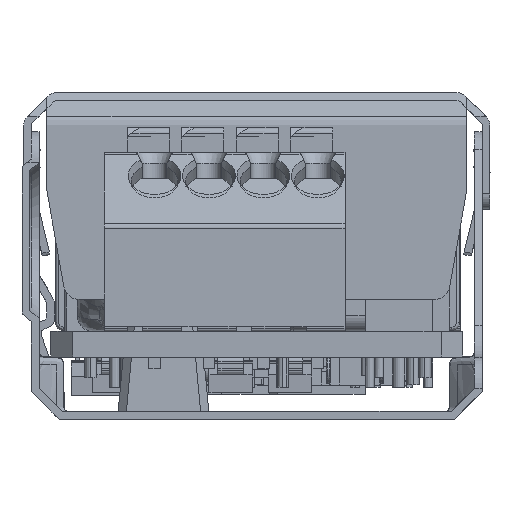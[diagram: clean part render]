
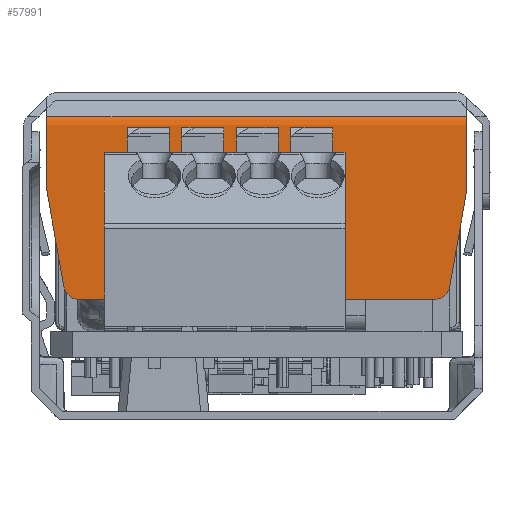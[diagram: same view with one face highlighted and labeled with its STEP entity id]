
A CAD part, left-side view. The second image highlights one B-rep face of the part: STEP entity #57991.
In plain terms, the highlighted free-form (B-spline) face has degree [1, 2] with [2, 5] control points.
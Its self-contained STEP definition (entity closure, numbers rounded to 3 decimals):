
#8687 = CARTESIAN_POINT ( 'NONE',  ( -158.504, 17.615, 362.98 ) ) ;
#11946 = AXIS2_PLACEMENT_3D ( 'NONE', #190408, #81082, #208755 ) ;
#12667 = CARTESIAN_POINT ( 'NONE',  ( -158.504, -9.385, 364.392 ) ) ;
#15989 = VERTEX_POINT ( 'NONE', #109671 ) ;
#16923 = ORIENTED_EDGE ( 'NONE', *, *, #38223, .T. ) ;
#18189 = VECTOR ( 'NONE', #210780, 1000. ) ;
#18405 = VERTEX_POINT ( 'NONE', #12667 ) ;
#18575 = CARTESIAN_POINT ( 'NONE',  ( -158.504, -8.295, 358.218 ) ) ;
#21439 = EDGE_CURVE ( 'NONE', #117425, #110815, #220851, .T. ) ;
#30086 = CARTESIAN_POINT ( 'NONE',  ( -158.504, -9.385, 368.899 ) ) ;
#30291 = EDGE_LOOP ( 'NONE', ( #187382, #32771, #194708, #175255, #145218, #50716, #111639, #16923 ) ) ;
#32771 = ORIENTED_EDGE ( 'NONE', *, *, #21439, .T. ) ;
#37039 = CARTESIAN_POINT ( 'NONE',  ( -158.504, -9.022, 362.334 ) ) ;
#38223 = EDGE_CURVE ( 'NONE', #146573, #60457, #119348, .T. ) ;
#40548 = B_SPLINE_CURVE_WITH_KNOTS ( 'NONE', 3,
 ( #64253, #82661, #210319, #100983 ),
 .UNSPECIFIED., .F., .F.,
 ( 4, 4 ),
 ( 0., 1. ),
 .UNSPECIFIED. ) ;
#50716 = ORIENTED_EDGE ( 'NONE', *, *, #71433, .T. ) ;
#53477 = VERTEX_POINT ( 'NONE', #226562 ) ;
#57991 = ADVANCED_FACE ( 'NONE', ( #151334 ), #84774, .T. ) ;
#60457 = VERTEX_POINT ( 'NONE', #182268 ) ;
#60667 = VERTEX_POINT ( 'NONE', #190149 ) ;
#63061 = CARTESIAN_POINT ( 'NONE',  ( -158.504, -9.385, 368.899 ) ) ;
#64253 = CARTESIAN_POINT ( 'NONE',  ( -158.504, 17.615, 364.392 ) ) ;
#64427 = CARTESIAN_POINT ( 'NONE',  ( -158.269, 17.615, 369.133 ) ) ;
#71433 = EDGE_CURVE ( 'NONE', #60667, #15989, #148792, .T. ) ;
#72865 = CARTESIAN_POINT ( 'NONE',  ( -158.269, 4.115, 369.133 ) ) ;
#78226 = EDGE_CURVE ( 'NONE', #53477, #18405, #108557, .T. ) ;
#79892 = CARTESIAN_POINT ( 'NONE',  ( -158.269, -9.385, 369.133 ) ) ;
#81082 = DIRECTION ( 'NONE',  ( -1., 0., 0. ) ) ;
#81482 = CARTESIAN_POINT ( 'NONE',  ( -158.504, -9.385, 362.98 ) ) ;
#82661 = CARTESIAN_POINT ( 'NONE',  ( -158.504, 17.252, 362.334 ) ) ;
#84774 =( BOUNDED_SURFACE ( )  B_SPLINE_SURFACE ( 1, 2, ( 
 ( #79892, #63061, #190810, #81482, #209144 ),
 ( #99794, #227568, #118119, #8687, #136506 ) ),
 .UNSPECIFIED., .F., .F., .F. ) 
 B_SPLINE_SURFACE_WITH_KNOTS ( ( 2, 2 ),
 ( 3, 2, 3 ),
 ( 0., 27. ),
 ( -39.683, -39.055, -28.08 ),
 .UNSPECIFIED. ) 
 GEOMETRIC_REPRESENTATION_ITEM ( )  RATIONAL_B_SPLINE_SURFACE ( (
 ( 1., 0.924, 1., 1., 1.),
 ( 1., 0.924, 1., 1., 1.) ) ) 
 REPRESENTATION_ITEM ( '' )  SURFACE ( )  );
#86049 = CARTESIAN_POINT ( 'NONE',  ( -158.504, -9.385, 366.48 ) ) ;
#97172 = CARTESIAN_POINT ( 'NONE',  ( -158.504, -7.311, 358.392 ) ) ;
#99794 = CARTESIAN_POINT ( 'NONE',  ( -158.269, 17.615, 369.133 ) ) ;
#100163 = EDGE_CURVE ( 'NONE', #60457, #117425, #164073, .T. ) ;
#100983 = CARTESIAN_POINT ( 'NONE',  ( -158.504, 16.526, 358.218 ) ) ;
#101139 = CARTESIAN_POINT ( 'NONE',  ( -158.504, 17.615, 366.48 ) ) ;
#101397 = CARTESIAN_POINT ( 'NONE',  ( -158.504, 4.115, 357.392 ) ) ;
#108557 =( BOUNDED_CURVE ( )  B_SPLINE_CURVE ( 2, ( #158682, #30086, #195365, #86049, #213693 ),
 .UNSPECIFIED., .F., .F. ) 
 B_SPLINE_CURVE_WITH_KNOTS ( ( 3, 2, 3 ),
 ( 0., 0.001, 0.005 ),
 .UNSPECIFIED. ) 
 CURVE ( )  GEOMETRIC_REPRESENTATION_ITEM ( )  RATIONAL_B_SPLINE_CURVE ( ( 1., 0.924, 1., 1., 1. ) ) 
 REPRESENTATION_ITEM ( '' )  );
#109548 = DIRECTION ( 'NONE',  ( 0., -1., 0. ) ) ;
#109671 = CARTESIAN_POINT ( 'NONE',  ( -158.504, 17.615, 364.392 ) ) ;
#110815 = VERTEX_POINT ( 'NONE', #196812 ) ;
#111639 = ORIENTED_EDGE ( 'NONE', *, *, #202193, .T. ) ;
#113424 = LINE ( 'NONE', #72865, #204802 ) ;
#115435 = DIRECTION ( 'NONE',  ( 0., 0., -1. ) ) ;
#117425 = VERTEX_POINT ( 'NONE', #138887 ) ;
#118119 = CARTESIAN_POINT ( 'NONE',  ( -158.504, 17.615, 368.568 ) ) ;
#119348 = CIRCLE ( 'NONE', #11946, 1. ) ;
#136506 = CARTESIAN_POINT ( 'NONE',  ( -158.504, 17.615, 357.392 ) ) ;
#138887 = CARTESIAN_POINT ( 'NONE',  ( -158.504, -7.311, 357.392 ) ) ;
#140914 = AXIS2_PLACEMENT_3D ( 'NONE', #97172, #224870, #115435 ) ;
#145218 = ORIENTED_EDGE ( 'NONE', *, *, #169756, .F. ) ;
#146470 = CARTESIAN_POINT ( 'NONE',  ( -158.504, -8.659, 360.276 ) ) ;
#146573 = VERTEX_POINT ( 'NONE', #162893 ) ;
#148792 =( BOUNDED_CURVE ( )  B_SPLINE_CURVE ( 2, ( #64427, #173783, #210509, #101139, #228902 ),
 .UNSPECIFIED., .F., .F. ) 
 B_SPLINE_CURVE_WITH_KNOTS ( ( 3, 2, 3 ),
 ( 0., 0.001, 0.005 ),
 .UNSPECIFIED. ) 
 CURVE ( )  GEOMETRIC_REPRESENTATION_ITEM ( )  RATIONAL_B_SPLINE_CURVE ( ( 1., 0.924, 1., 1., 1. ) ) 
 REPRESENTATION_ITEM ( '' )  );
#151334 = FACE_OUTER_BOUND ( 'NONE', #30291, .T. ) ;
#158682 = CARTESIAN_POINT ( 'NONE',  ( -158.269, -9.385, 369.133 ) ) ;
#162893 = CARTESIAN_POINT ( 'NONE',  ( -158.504, 16.526, 358.218 ) ) ;
#164073 = LINE ( 'NONE', #101397, #18189 ) ;
#164852 = CARTESIAN_POINT ( 'NONE',  ( -158.504, -9.385, 364.392 ) ) ;
#169756 = EDGE_CURVE ( 'NONE', #60667, #53477, #113424, .T. ) ;
#173783 = CARTESIAN_POINT ( 'NONE',  ( -158.504, 17.615, 368.899 ) ) ;
#175255 = ORIENTED_EDGE ( 'NONE', *, *, #78226, .F. ) ;
#182268 = CARTESIAN_POINT ( 'NONE',  ( -158.504, 15.541, 357.392 ) ) ;
#187382 = ORIENTED_EDGE ( 'NONE', *, *, #100163, .T. ) ;
#190149 = CARTESIAN_POINT ( 'NONE',  ( -158.269, 17.615, 369.133 ) ) ;
#190408 = CARTESIAN_POINT ( 'NONE',  ( -158.504, 15.541, 358.392 ) ) ;
#190810 = CARTESIAN_POINT ( 'NONE',  ( -158.504, -9.385, 368.568 ) ) ;
#194708 = ORIENTED_EDGE ( 'NONE', *, *, #222995, .T. ) ;
#195365 = CARTESIAN_POINT ( 'NONE',  ( -158.504, -9.385, 368.568 ) ) ;
#196812 = CARTESIAN_POINT ( 'NONE',  ( -158.504, -8.295, 358.218 ) ) ;
#202193 = EDGE_CURVE ( 'NONE', #15989, #146573, #40548, .T. ) ;
#204802 = VECTOR ( 'NONE', #109548, 1000. ) ;
#208755 = DIRECTION ( 'NONE',  ( 0., 0., 1. ) ) ;
#209144 = CARTESIAN_POINT ( 'NONE',  ( -158.504, -9.385, 357.392 ) ) ;
#210319 = CARTESIAN_POINT ( 'NONE',  ( -158.504, 16.889, 360.276 ) ) ;
#210509 = CARTESIAN_POINT ( 'NONE',  ( -158.504, 17.615, 368.568 ) ) ;
#210780 = DIRECTION ( 'NONE',  ( 0., -1., 0. ) ) ;
#213693 = CARTESIAN_POINT ( 'NONE',  ( -158.504, -9.385, 364.392 ) ) ;
#220851 = CIRCLE ( 'NONE', #140914, 1. ) ;
#222995 = EDGE_CURVE ( 'NONE', #110815, #18405, #236096, .T. ) ;
#224870 = DIRECTION ( 'NONE',  ( -1., 0., 0. ) ) ;
#226562 = CARTESIAN_POINT ( 'NONE',  ( -158.269, -9.385, 369.133 ) ) ;
#227568 = CARTESIAN_POINT ( 'NONE',  ( -158.504, 17.615, 368.899 ) ) ;
#228902 = CARTESIAN_POINT ( 'NONE',  ( -158.504, 17.615, 364.392 ) ) ;
#236096 = B_SPLINE_CURVE_WITH_KNOTS ( 'NONE', 3,
 ( #18575, #146470, #37039, #164852 ),
 .UNSPECIFIED., .F., .F.,
 ( 4, 4 ),
 ( 0., 1. ),
 .UNSPECIFIED. ) ;
